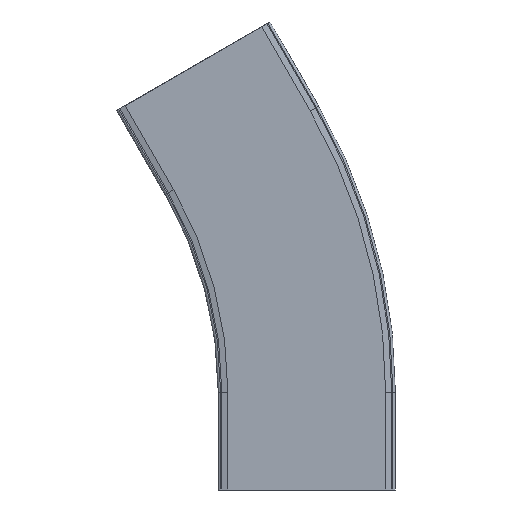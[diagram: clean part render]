
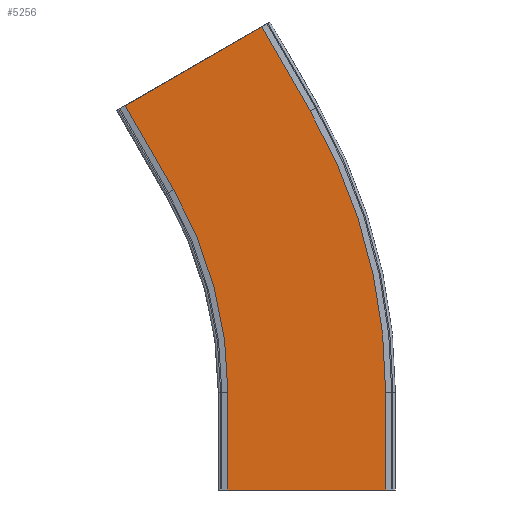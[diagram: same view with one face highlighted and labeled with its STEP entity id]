
A CAD part, front view. The second image highlights one B-rep face of the part: STEP entity #5256.
In plain terms, the highlighted planar face has unit normal (0, -1, 0).
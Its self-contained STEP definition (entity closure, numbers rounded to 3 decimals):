
#5013=CARTESIAN_POINT('',(104.,-74.,0.0));
#5014=VERTEX_POINT('',#5013);
#5021=CARTESIAN_POINT('',(-26.,-74.,0.0));
#5022=VERTEX_POINT('',#5021);
#5023=CARTESIAN_POINT('',(-26.,-74.,0.0));
#5024=DIRECTION('',(1.0,0.0,0.0));
#5025=VECTOR('',#5024,130.);
#5026=LINE('',#5023,#5025);
#5027=EDGE_CURVE('',#5022,#5014,#5026,.T.);
#5082=CARTESIAN_POINT('',(-26.,-74.,80.0));
#5083=VERTEX_POINT('',#5082);
#5092=CARTESIAN_POINT('',(-26.,-74.,0.0));
#5093=DIRECTION('',(0.0,0.0,1.0));
#5094=VECTOR('',#5093,80.0);
#5095=LINE('',#5092,#5094);
#5096=EDGE_CURVE('',#5022,#5083,#5095,.T.);
#5106=CARTESIAN_POINT('',(104.,-74.,80.0));
#5107=VERTEX_POINT('',#5106);
#5116=CARTESIAN_POINT('',(104.,-74.,0.0));
#5117=DIRECTION('',(0.0,0.0,1.0));
#5118=VECTOR('',#5117,80.0);
#5119=LINE('',#5116,#5118);
#5120=EDGE_CURVE('',#5014,#5107,#5119,.T.);
#5139=CARTESIAN_POINT('',(-70.881,-74.,247.5));
#5140=VERTEX_POINT('',#5139);
#5155=CARTESIAN_POINT('',(-361.,-74.,80.0));
#5156=DIRECTION('',(0.0,-1.0,0.0));
#5157=DIRECTION('',(1.0,0.0,0.0));
#5158=AXIS2_PLACEMENT_3D('',#5155,#5156,#5157);
#5159=CIRCLE('',#5158,335.);
#5160=EDGE_CURVE('',#5083,#5140,#5159,.T.);
#5214=CARTESIAN_POINT('',(186.422,-74.,61.838));
#5215=DIRECTION('',(0.0,-1.0,0.0));
#5216=DIRECTION('',(0.5,0.0,-0.866));
#5217=AXIS2_PLACEMENT_3D('',#5214,#5215,#5216);
#5218=PLANE('',#5217);
#5219=CARTESIAN_POINT('',(1.702,-74.,381.782));
#5220=VERTEX_POINT('',#5219);
#5221=CARTESIAN_POINT('',(-110.881,-74.,316.782));
#5222=VERTEX_POINT('',#5221);
#5223=CARTESIAN_POINT('',(1.702,-74.,381.782));
#5224=DIRECTION('',(-0.866,0.,-0.5));
#5225=VECTOR('',#5224,130.);
#5226=LINE('',#5223,#5225);
#5227=EDGE_CURVE('',#5220,#5222,#5226,.T.);
#5228=ORIENTED_EDGE('',*,*,#5227,.T.);
#5229=CARTESIAN_POINT('',(-70.881,-74.,247.5));
#5230=DIRECTION('',(-0.5,0.0,0.866));
#5231=VECTOR('',#5230,80.);
#5232=LINE('',#5229,#5231);
#5233=EDGE_CURVE('',#5140,#5222,#5232,.T.);
#5234=ORIENTED_EDGE('',*,*,#5233,.F.);
#5235=ORIENTED_EDGE('',*,*,#5160,.F.);
#5236=ORIENTED_EDGE('',*,*,#5096,.F.);
#5237=ORIENTED_EDGE('',*,*,#5027,.T.);
#5238=ORIENTED_EDGE('',*,*,#5120,.T.);
#5239=CARTESIAN_POINT('',(41.702,-74.,312.5));
#5240=VERTEX_POINT('',#5239);
#5241=CARTESIAN_POINT('',(-361.,-74.,80.0));
#5242=DIRECTION('',(0.0,-1.0,0.0));
#5243=DIRECTION('',(1.0,0.0,0.0));
#5244=AXIS2_PLACEMENT_3D('',#5241,#5242,#5243);
#5245=CIRCLE('',#5244,465.);
#5246=EDGE_CURVE('',#5107,#5240,#5245,.T.);
#5247=ORIENTED_EDGE('',*,*,#5246,.T.);
#5248=CARTESIAN_POINT('',(41.702,-74.,312.5));
#5249=DIRECTION('',(-0.5,0.0,0.866));
#5250=VECTOR('',#5249,80.);
#5251=LINE('',#5248,#5250);
#5252=EDGE_CURVE('',#5240,#5220,#5251,.T.);
#5253=ORIENTED_EDGE('',*,*,#5252,.T.);
#5254=EDGE_LOOP('',(#5228,#5234,#5235,#5236,#5237,#5238,#5247,#5253));
#5255=FACE_OUTER_BOUND('',#5254,.T.);
#5256=ADVANCED_FACE('',(#5255),#5218,.T.);
